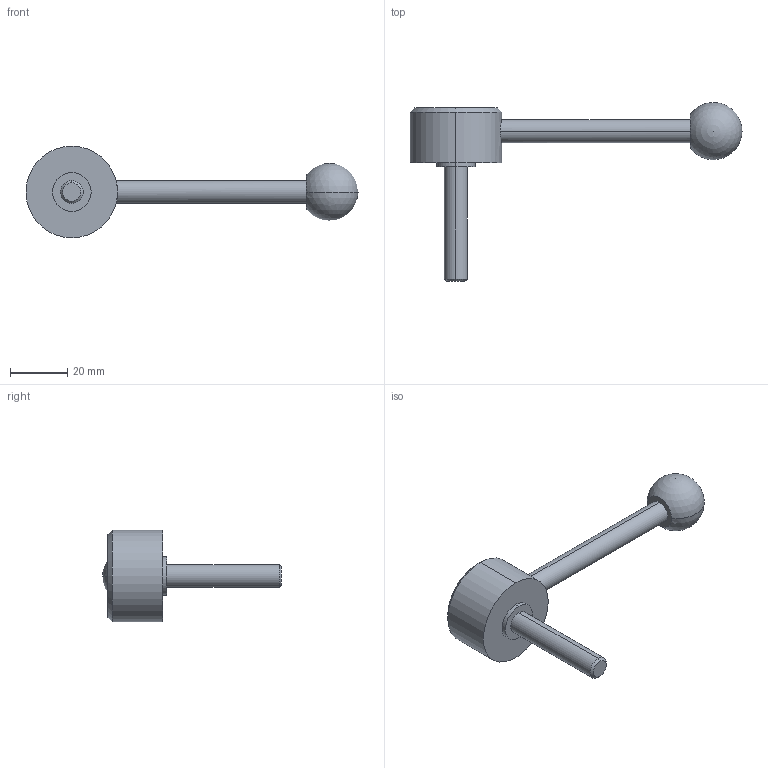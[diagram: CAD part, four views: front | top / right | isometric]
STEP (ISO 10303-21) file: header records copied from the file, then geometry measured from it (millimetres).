
FILE_DESCRIPTION (( 'STEP AP214' ), '1' );
FILE_NAME ('125.5-32-M8-40-D.step', '2020-02-18T11:25:58', ( '' ), ( '' ), 'SwSTEP 2.0', 'SolidWorks 2019', '' );
FILE_SCHEMA (( 'AUTOMOTIVE_DESIGN' ));
Length unit declared in the file: millimetre
Products named in the file (1): 125.5-32-M8-40-D
Bounding box: 116 x 62.47 x 32 mm (x, y, z)
Volume: 24860.8 mm3; surface area: 7302.6 mm2
Topology: 1 solids, 1 shells, 22 faces, 47 edges, 30 vertices
Faces by surface type: cylinder 10, plane 6, cone 4, sphere 2
Entity records: 730 total; most frequent: CARTESIAN_POINT 158, DIRECTION 112, ORIENTED_EDGE 84, AXIS2_PLACEMENT_3D 49, EDGE_CURVE 42, VERTEX_POINT 27, EDGE_LOOP 27, CIRCLE 26
